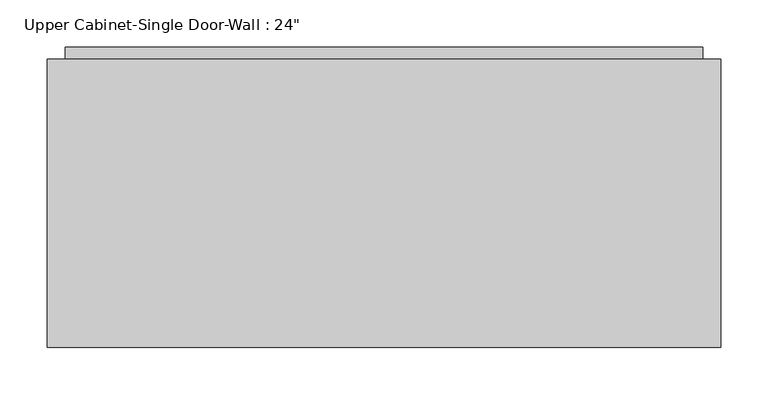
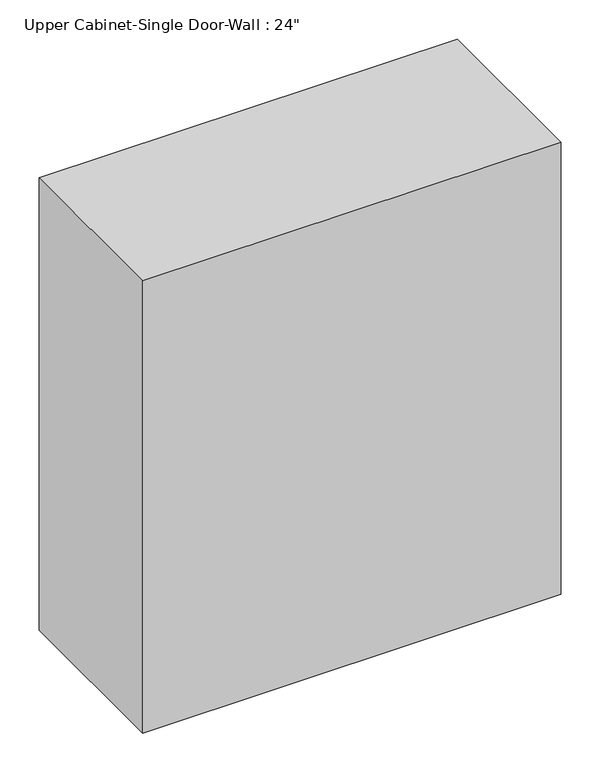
"""IFC4 building model written with IfcOpenShell, lengths in millimetres: furniture geometry."""

from ifc_helpers import new_model, si_unit, frame, origin, place, context, project, spatial, polyline, outline, extrude, faceted_brep, source, transform, mapped, element, save


def furniture_c219662e(model_context):
    return source(origin(), model_context, "Body", "SolidModel", [
        faceted_brep([(-452.8288372, 82.55, 2133.6), (-452.8288372, 82.55, 1320.8), (258.3711628, 82.55, 1320.8), (258.3711628, 82.55, 2133.6), (-452.8288372, 387.35, 2133.6), (258.3711628, 387.35, 2133.6), (258.3711628, 387.35, 1320.8), (-452.8288372, 387.35, 1320.8), (-433.7788372, 387.35, 2114.55), (-433.7788372, 387.35, 1339.85), (239.3211628, 387.35, 1339.85), (239.3211628, 387.35, 2114.55), (239.3211628, 101.6, 2114.55), (-433.7788372, 101.6, 2114.55), (239.3211628, 101.6, 1339.85), (-433.7788372, 101.6, 1339.85)], [[[0, 1, 2, 3]], [[4, 5, 6, 7], [8, 9, 10, 11]], [[1, 0, 4, 7]], [[2, 1, 7, 6]], [[3, 2, 6, 5]], [[0, 3, 5, 4]], [[8, 11, 12, 13]], [[11, 10, 14, 12]], [[10, 9, 15, 14]], [[9, 8, 13, 15]], [[13, 12, 14, 15]]]),
        extrude(outline(polyline([(-433.7788372, 400.05), (239.3211628, 400.05), (239.3211628, 368.3), (-433.7788372, 368.3), (-433.7788372, 400.05)])), frame((0.0, 0.0, 1339.85), z_axis=(0.0, 0.0, 1.0), x_axis=(1.0, 0.0, 0.0)), (0.0, 0.0, 1.0), 774.7),
    ])


if __name__ == "__main__":
    model = new_model("IFC4")
    model_context = context("Model", 3, world=origin())
    ifc_project = project(units=[si_unit("LENGTHUNIT", "METRE", prefix="MILLI")], contexts=[model_context])
    site = spatial("IfcSite", under=ifc_project)
    building = spatial("IfcBuilding", under=site)
    placement = place(None, origin())
    furniture_shape = furniture_c219662e(model_context)
    element("IfcFurniture", 1, ObjectType="Upper Cabinet-Single Door-Wall : 24\"", at=placement, inside=building, context=model_context, shape_type="MappedRepresentation", body=[
        mapped(furniture_shape, transform((0.0, 0.0, 0.0), x_axis=(1.0, 0.0, 0.0), y_axis=(0.0, 1.0, 0.0), z_axis=(0.0, 0.0, 1.0))),
    ])
    save(model, "model.ifc")
